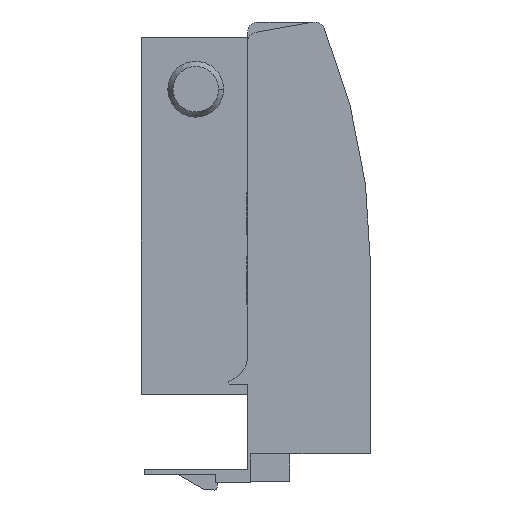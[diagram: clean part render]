
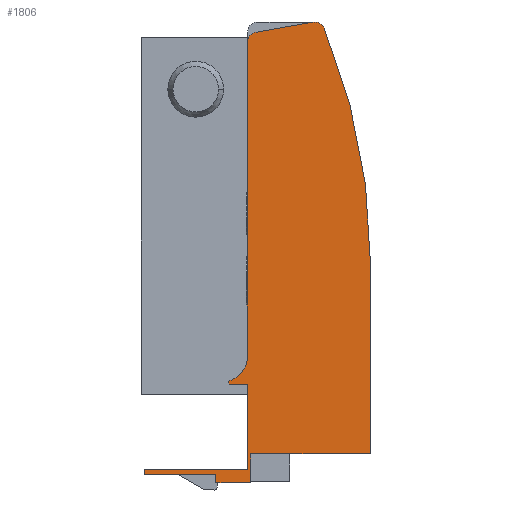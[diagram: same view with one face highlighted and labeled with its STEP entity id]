
A CAD part, front view. The second image highlights one B-rep face of the part: STEP entity #1806.
In plain terms, the highlighted planar face has unit normal (0, -1, 0).
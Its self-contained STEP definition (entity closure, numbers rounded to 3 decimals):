
#13 = VERTEX_POINT ( 'NONE', #133 ) ;
#19 = VERTEX_POINT ( 'NONE', #139 ) ;
#26 = VERTEX_POINT ( 'NONE', #146 ) ;
#32 = VERTEX_POINT ( 'NONE', #152 ) ;
#41 = VERTEX_POINT ( 'NONE', #161 ) ;
#46 = VERTEX_POINT ( 'NONE', #166 ) ;
#56 = VERTEX_POINT ( 'NONE', #176 ) ;
#62 = VERTEX_POINT ( 'NONE', #182 ) ;
#63 = VERTEX_POINT ( 'NONE', #183 ) ;
#64 = VERTEX_POINT ( 'NONE', #184 ) ;
#65 = VERTEX_POINT ( 'NONE', #185 ) ;
#67 = VERTEX_POINT ( 'NONE', #187 ) ;
#68 = VERTEX_POINT ( 'NONE', #188 ) ;
#70 = VERTEX_POINT ( 'NONE', #190 ) ;
#72 = VERTEX_POINT ( 'NONE', #192 ) ;
#81 = VERTEX_POINT ( 'NONE', #201 ) ;
#89 = VERTEX_POINT ( 'NONE', #209 ) ;
#133 = CARTESIAN_POINT ( 'NONE',  ( -20.9, 0., -13.5 ) ) ;
#139 = CARTESIAN_POINT ( 'NONE',  ( -21.5, 0., 0. ) ) ;
#146 = CARTESIAN_POINT ( 'NONE',  ( -25., 0., 0. ) ) ;
#152 = CARTESIAN_POINT ( 'NONE',  ( -19.847, 0., 68.03 ) ) ;
#161 = CARTESIAN_POINT ( 'NONE',  ( -8.847, 0., 69.97 ) ) ;
#166 = CARTESIAN_POINT ( 'NONE',  ( -21.5, 0., 66.06 ) ) ;
#176 = CARTESIAN_POINT ( 'NONE',  ( -21.5, 0., -16.5 ) ) ;
#182 = CARTESIAN_POINT ( 'NONE',  ( -6.648, 0., 68.756 ) ) ;
#183 = CARTESIAN_POINT ( 'NONE',  ( -27.599, 0., -19.1 ) ) ;
#184 = CARTESIAN_POINT ( 'NONE',  ( -41.499, 0., -16.5 ) ) ;
#185 = CARTESIAN_POINT ( 'NONE',  ( 2.3, 0., -13.5 ) ) ;
#187 = CARTESIAN_POINT ( 'NONE',  ( -21.5, 0., 5.395 ) ) ;
#188 = CARTESIAN_POINT ( 'NONE',  ( -27.599, 0., -17.528 ) ) ;
#190 = CARTESIAN_POINT ( 'NONE',  ( -41.499, 0., -17.528 ) ) ;
#192 = CARTESIAN_POINT ( 'NONE',  ( -20.9, 0., -19.1 ) ) ;
#201 = CARTESIAN_POINT ( 'NONE',  ( 2.3, 0., 23.168 ) ) ;
#209 = CARTESIAN_POINT ( 'NONE',  ( -25.161, 0., 0.578 ) ) ;
#241 = CARTESIAN_POINT ( 'NONE',  ( -25.161, 0., 0.578 ) ) ;
#242 = DIRECTION ( 'NONE',  ( 0.268, 0., -0.963 ) ) ;
#247 = CARTESIAN_POINT ( 'NONE',  ( -26.5, 0., 5.395 ) ) ;
#248 = DIRECTION ( 'NONE',  ( 0., 1., 0. ) ) ;
#249 = DIRECTION ( 'NONE',  ( 1., 0., 0. ) ) ;
#264 = CARTESIAN_POINT ( 'NONE',  ( -20.9, 0., -19.1 ) ) ;
#265 = DIRECTION ( 'NONE',  ( 0., 0., 1. ) ) ;
#423 = CARTESIAN_POINT ( 'NONE',  ( -21.5, 0., 68. ) ) ;
#424 = DIRECTION ( 'NONE',  ( 0., 0., -1. ) ) ;
#441 = CARTESIAN_POINT ( 'NONE',  ( -21.5, 0., -16.5 ) ) ;
#442 = DIRECTION ( 'NONE',  ( -1., 0., 0. ) ) ;
#443 = CARTESIAN_POINT ( 'NONE',  ( -27.599, 0., -19.1 ) ) ;
#444 = DIRECTION ( 'NONE',  ( 1., 0., 0. ) ) ;
#455 = CARTESIAN_POINT ( 'NONE',  ( -21.5, 0., 0. ) ) ;
#456 = DIRECTION ( 'NONE',  ( 0., 0., -1. ) ) ;
#480 = CARTESIAN_POINT ( 'NONE',  ( 2.3, 0., -13.5 ) ) ;
#481 = DIRECTION ( 'NONE',  ( 0., 0., 1. ) ) ;
#491 = CARTESIAN_POINT ( 'NONE',  ( -21.5, 0., -13.5 ) ) ;
#492 = DIRECTION ( 'NONE',  ( 1., 0., 0. ) ) ;
#499 = CARTESIAN_POINT ( 'NONE',  ( -8.5, 0., 68. ) ) ;
#500 = DIRECTION ( 'NONE',  ( 0., -1., 0. ) ) ;
#501 = DIRECTION ( 'NONE',  ( 1., 0., 0. ) ) ;
#509 = CARTESIAN_POINT ( 'NONE',  ( -25., 0., 0. ) ) ;
#510 = DIRECTION ( 'NONE',  ( 1., 0., 0. ) ) ;
#511 = CARTESIAN_POINT ( 'NONE',  ( -41.499, 0., -16.5 ) ) ;
#512 = DIRECTION ( 'NONE',  ( 0., 0., -1. ) ) ;
#513 = CARTESIAN_POINT ( 'NONE',  ( -41.499, 0., -17.528 ) ) ;
#514 = DIRECTION ( 'NONE',  ( 1., 0., 0. ) ) ;
#515 = CARTESIAN_POINT ( 'NONE',  ( -27.599, 0., -17.528 ) ) ;
#516 = DIRECTION ( 'NONE',  ( 0., 0., -1. ) ) ;
#517 = CARTESIAN_POINT ( 'NONE',  ( -118.3, 0., 23.168 ) ) ;
#518 = DIRECTION ( 'NONE',  ( 0., -1., 0. ) ) ;
#519 = DIRECTION ( 'NONE',  ( 1., 0., 0. ) ) ;
#520 = CARTESIAN_POINT ( 'NONE',  ( -8.847, 0., 69.97 ) ) ;
#521 = DIRECTION ( 'NONE',  ( 0.985, 0., 0.174 ) ) ;
#522 = CARTESIAN_POINT ( 'NONE',  ( -19.5, 0., 66.06 ) ) ;
#523 = DIRECTION ( 'NONE',  ( 0., 1., 0. ) ) ;
#524 = DIRECTION ( 'NONE',  ( 1., 0., 0. ) ) ;
#820 = PLANE ( 'NONE',  #1206 ) ;
#821 = CARTESIAN_POINT ( 'NONE',  ( -4.5, 0., 34.728 ) ) ;
#822 = DIRECTION ( 'NONE',  ( 0., -1., 0. ) ) ;
#823 = DIRECTION ( 'NONE',  ( 1., 0., 0. ) ) ;
#943 = EDGE_CURVE ( 'NONE', #89, #26, #1324, .T. ) ;
#946 = EDGE_CURVE ( 'NONE', #67, #89, #1317, .T. ) ;
#954 = EDGE_CURVE ( 'NONE', #72, #13, #1303, .T. ) ;
#1025 = EDGE_CURVE ( 'NONE', #46, #67, #2175, .T. ) ;
#1033 = EDGE_CURVE ( 'NONE', #56, #64, #2156, .T. ) ;
#1034 = EDGE_CURVE ( 'NONE', #63, #72, #2085, .T. ) ;
#1040 = EDGE_CURVE ( 'NONE', #19, #56, #2042, .T. ) ;
#1051 = EDGE_CURVE ( 'NONE', #65, #81, #1997, .T. ) ;
#1056 = EDGE_CURVE ( 'NONE', #13, #65, #2025, .T. ) ;
#1060 = EDGE_CURVE ( 'NONE', #62, #41, #2008, .T. ) ;
#1064 = EDGE_CURVE ( 'NONE', #26, #19, #2013, .T. ) ;
#1065 = EDGE_CURVE ( 'NONE', #64, #70, #2015, .T. ) ;
#1066 = EDGE_CURVE ( 'NONE', #70, #68, #2017, .T. ) ;
#1067 = EDGE_CURVE ( 'NONE', #68, #63, #2019, .T. ) ;
#1068 = EDGE_CURVE ( 'NONE', #81, #62, #2132, .T. ) ;
#1069 = EDGE_CURVE ( 'NONE', #32, #41, #1965, .T. ) ;
#1070 = EDGE_CURVE ( 'NONE', #46, #32, #2112, .T. ) ;
#1125 = AXIS2_PLACEMENT_3D ( 'NONE', #247, #248, #249 ) ;
#1149 = AXIS2_PLACEMENT_3D ( 'NONE', #499, #500, #501 ) ;
#1151 = AXIS2_PLACEMENT_3D ( 'NONE', #517, #518, #519 ) ;
#1152 = AXIS2_PLACEMENT_3D ( 'NONE', #522, #523, #524 ) ;
#1206 = AXIS2_PLACEMENT_3D ( 'NONE', #821, #822, #823 ) ;
#1302 = VECTOR ( 'NONE', #265, 1000. ) ;
#1303 = LINE ( 'NONE', #264, #1302 ) ;
#1317 = CIRCLE ( 'NONE', #1125, 5. ) ;
#1323 = VECTOR ( 'NONE', #242, 1000. ) ;
#1324 = LINE ( 'NONE', #241, #1323 ) ;
#1656 = ORIENTED_EDGE ( 'NONE', *, *, #943, .T. ) ;
#1657 = ORIENTED_EDGE ( 'NONE', *, *, #1064, .T. ) ;
#1658 = ORIENTED_EDGE ( 'NONE', *, *, #1040, .T. ) ;
#1659 = ORIENTED_EDGE ( 'NONE', *, *, #1033, .T. ) ;
#1660 = ORIENTED_EDGE ( 'NONE', *, *, #1065, .T. ) ;
#1661 = ORIENTED_EDGE ( 'NONE', *, *, #1066, .T. ) ;
#1662 = ORIENTED_EDGE ( 'NONE', *, *, #1067, .T. ) ;
#1663 = ORIENTED_EDGE ( 'NONE', *, *, #1034, .T. ) ;
#1664 = ORIENTED_EDGE ( 'NONE', *, *, #954, .T. ) ;
#1665 = ORIENTED_EDGE ( 'NONE', *, *, #1056, .T. ) ;
#1666 = ORIENTED_EDGE ( 'NONE', *, *, #1051, .T. ) ;
#1668 = ORIENTED_EDGE ( 'NONE', *, *, #1068, .T. ) ;
#1671 = ORIENTED_EDGE ( 'NONE', *, *, #1060, .T. ) ;
#1672 = ORIENTED_EDGE ( 'NONE', *, *, #1069, .F. ) ;
#1673 = ORIENTED_EDGE ( 'NONE', *, *, #1070, .F. ) ;
#1674 = ORIENTED_EDGE ( 'NONE', *, *, #1025, .T. ) ;
#1675 = ORIENTED_EDGE ( 'NONE', *, *, #946, .T. ) ;
#1735 = EDGE_LOOP ( 'NONE', ( #1656, #1657, #1658, #1659, #1660, #1661, #1662, #1663, #1664, #1665, #1666, #1668, #1671, #1672, #1673, #1674, #1675 ) ) ;
#1806 = ADVANCED_FACE ( 'NONE', ( #1880 ), #820, .T. ) ;
#1880 = FACE_OUTER_BOUND ( 'NONE', #1735, .T. ) ;
#1965 = LINE ( 'NONE', #520, #2133 ) ;
#1996 = VECTOR ( 'NONE', #481, 1000. ) ;
#1997 = LINE ( 'NONE', #480, #1996 ) ;
#2008 = CIRCLE ( 'NONE', #1149, 2. ) ;
#2013 = LINE ( 'NONE', #509, #2014 ) ;
#2014 = VECTOR ( 'NONE', #510, 1000. ) ;
#2015 = LINE ( 'NONE', #511, #2016 ) ;
#2016 = VECTOR ( 'NONE', #512, 1000. ) ;
#2017 = LINE ( 'NONE', #513, #2018 ) ;
#2018 = VECTOR ( 'NONE', #514, 1000. ) ;
#2019 = LINE ( 'NONE', #515, #2020 ) ;
#2020 = VECTOR ( 'NONE', #516, 1000. ) ;
#2025 = LINE ( 'NONE', #491, #2026 ) ;
#2026 = VECTOR ( 'NONE', #492, 1000. ) ;
#2041 = VECTOR ( 'NONE', #456, 1000. ) ;
#2042 = LINE ( 'NONE', #455, #2041 ) ;
#2075 = VECTOR ( 'NONE', #442, 1000. ) ;
#2085 = LINE ( 'NONE', #443, #2089 ) ;
#2089 = VECTOR ( 'NONE', #444, 1000. ) ;
#2112 = CIRCLE ( 'NONE', #1152, 2. ) ;
#2132 = CIRCLE ( 'NONE', #1151, 120.6 ) ;
#2133 = VECTOR ( 'NONE', #521, 1000. ) ;
#2151 = VECTOR ( 'NONE', #424, 1000. ) ;
#2156 = LINE ( 'NONE', #441, #2075 ) ;
#2175 = LINE ( 'NONE', #423, #2151 ) ;
